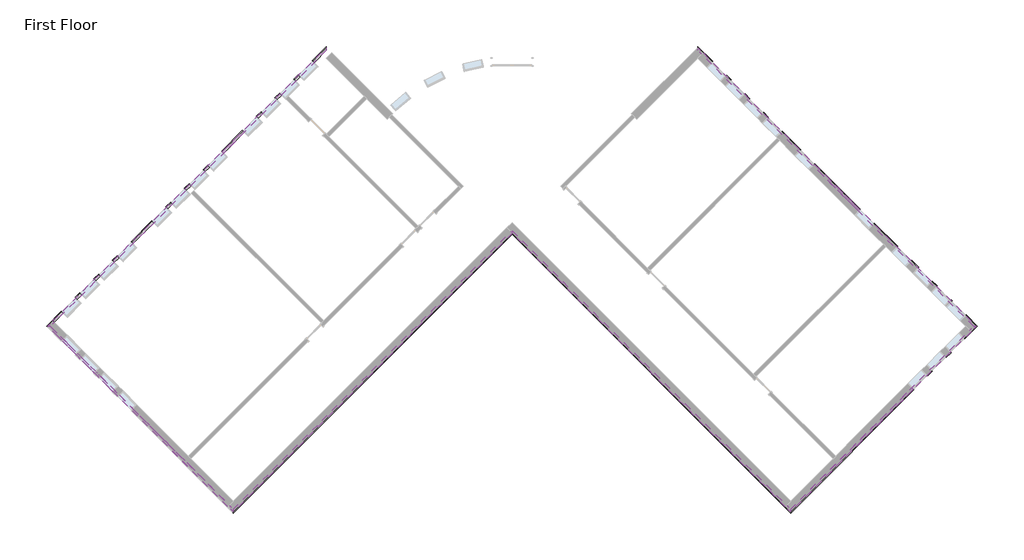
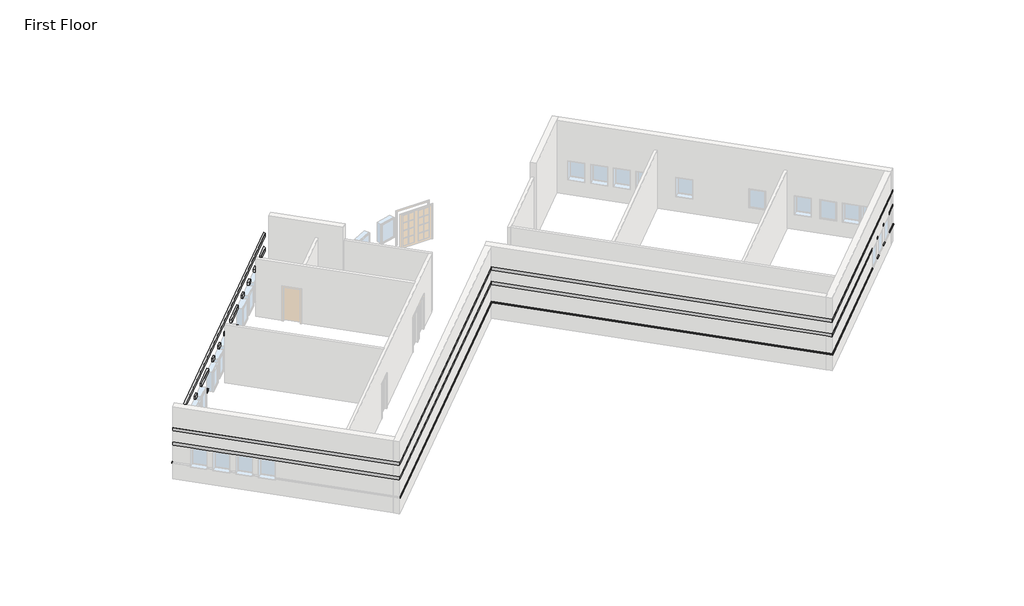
# One storey, part 3 of 3: 17 proxies.
"""IFC4 building model written with IfcOpenShell, lengths in millimetres."""

from ifc_helpers import new_model, si_unit, origin, place, context, project, spatial, faceted_brep, element, save

model = new_model("IFC4")

# Units and contexts
model_context = context("Model", 3, world=origin())
ifc_project = project(units=[si_unit("LENGTHUNIT", "METRE", prefix="MILLI")], contexts=[model_context])

# Site, building, storey
site = spatial("IfcSite", under=ifc_project)
building = spatial("IfcBuilding", under=site)
storey = spatial("IfcBuildingStorey", under=building, Name="First Floor", Elevation=0.0)

# Proxies
placement = place(None, origin())
element("IfcBuildingElementProxy", 1, Name="Wall Sweeps", at=placement, inside=storey, context=model_context, shape_type="Brep", body=[
    faceted_brep([(5753.0175119, 11443.3655905, 1085.85), (5753.0175119, 11573.5793042, 1085.85), (5753.0175119, 11622.9707129, 1041.4), (5753.0175119, 11622.9707129, 1016.0), (5753.0175119, 11443.3655905, 1016.0), (6351.327076, 10845.0560264, 1085.85), (6351.327076, 10845.0560264, 1016.0), (6416.4339329, 10910.1628833, 1016.0), (6441.1296372, 10934.8585876, 1016.0), (6441.1296372, 10934.8585876, 1041.4), (6416.4339329, 10910.1628833, 1085.85), (5937.1127624, 11259.27034, 1085.85), (5937.1127624, 11259.27034, 1016.0)], [[[0, 1, 2, 3, 4]], [[5, 6, 7, 8, 9, 10]], [[1, 0, 11, 5, 10]], [[2, 1, 10, 9]], [[3, 2, 9, 8]], [[4, 3, 8, 7, 6, 12]], [[0, 4, 12, 6, 5, 11]]]),
    faceted_brep([(6997.9055167, 10198.4775857, 1085.85), (7063.0123736, 10263.5844426, 1085.85), (7087.7080779, 10288.2801469, 1041.4), (7087.7080779, 10288.2801469, 1016.0), (7063.0123736, 10263.5844426, 1016.0), (6997.9055167, 10198.4775857, 1016.0), (7213.4316636, 9982.9514388, 1085.85), (7213.4316636, 9982.9514388, 1016.0), (7278.5385205, 10048.0582957, 1016.0), (7303.2342248, 10072.754, 1016.0), (7303.2342248, 10072.754, 1041.4), (7278.5385205, 10048.0582957, 1085.85)], [[[0, 1, 2, 3, 4, 5]], [[6, 7, 8, 9, 10, 11]], [[1, 0, 6, 11]], [[2, 1, 11, 10]], [[3, 2, 10, 9]], [[5, 4, 3, 9, 8, 7]], [[0, 5, 7, 6]]]),
    faceted_brep([(7860.0101043, 9336.3729981, 1085.85), (7925.1169612, 9401.479855, 1085.85), (7949.8126655, 9426.1755593, 1041.4), (7949.8126655, 9426.1755593, 1016.0), (7925.1169612, 9401.479855, 1016.0), (7860.0101043, 9336.3729981, 1016.0), (8075.5362512, 9120.8468512, 1085.85), (8075.5362512, 9120.8468512, 1016.0), (8140.6431081, 9185.9537081, 1016.0), (8165.3388124, 9210.6494124, 1016.0), (8165.3388124, 9210.6494124, 1041.4), (8140.6431081, 9185.9537081, 1085.85)], [[[0, 1, 2, 3, 4, 5]], [[6, 7, 8, 9, 10, 11]], [[1, 0, 6, 11]], [[2, 1, 11, 10]], [[3, 2, 10, 9]], [[5, 4, 3, 9, 8, 7]], [[0, 5, 7, 6]]]),
    faceted_brep([(8722.1146919, 8474.2684105, 1085.85), (8787.2215488, 8539.3752673, 1085.85), (8811.9172532, 8564.0709717, 1041.4), (8811.9172532, 8564.0709717, 1016.0), (8787.2215488, 8539.3752673, 1016.0), (8722.1146919, 8474.2684105, 1016.0), (8937.6408389, 8258.7422636, 1085.85), (8937.6408389, 8258.7422636, 1016.0), (9002.7476957, 8323.8491204, 1016.0), (9027.4434001, 8348.5448248, 1016.0), (9027.4434001, 8348.5448248, 1041.4), (9002.7476957, 8323.8491204, 1085.85)], [[[0, 1, 2, 3, 4, 5]], [[6, 7, 8, 9, 10, 11]], [[1, 0, 6, 11]], [[2, 1, 11, 10]], [[3, 2, 10, 9]], [[5, 4, 3, 9, 8, 7]], [[0, 5, 7, 6]]]),
    faceted_brep([(9584.2192796, 7612.1638228, 1085.85), (9649.3261364, 7677.2706797, 1085.85), (9674.0218408, 7701.966384, 1041.4), (9674.0218408, 7701.966384, 1016.0), (9649.3261364, 7677.2706797, 1016.0), (9584.2192796, 7612.1638228, 1016.0), (10446.3238672, 6750.0592352, 1085.85), (10446.3238672, 6750.0592352, 1016.0), (10511.4307241, 6815.1660921, 1016.0), (10536.1264284, 6839.8617964, 1016.0), (10536.1264284, 6839.8617964, 1041.4), (10511.4307241, 6815.1660921, 1085.85)], [[[0, 1, 2, 3, 4, 5]], [[6, 7, 8, 9, 10, 11]], [[1, 0, 6, 11]], [[2, 1, 11, 10]], [[3, 2, 10, 9]], [[5, 4, 3, 9, 8, 7]], [[0, 5, 7, 6]]]),
    faceted_brep([(11092.9023079, 6103.4807945, 1085.85), (11158.0091648, 6168.5876514, 1085.85), (11182.7048691, 6193.2833557, 1041.4), (11182.7048691, 6193.2833557, 1016.0), (11158.0091648, 6168.5876514, 1016.0), (11092.9023079, 6103.4807945, 1016.0), (13214.4878165, 3981.8952859, 1085.85), (13214.4878165, 3981.8952859, 1016.0), (13279.5946734, 4047.0021428, 1016.0), (13304.2903777, 4071.6978471, 1016.0), (13304.2903777, 4071.6978471, 1041.4), (13279.5946734, 4047.0021428, 1085.85)], [[[0, 1, 2, 3, 4, 5]], [[6, 7, 8, 9, 10, 11]], [[1, 0, 6, 11]], [[2, 1, 11, 10]], [[3, 2, 10, 9]], [[5, 4, 3, 9, 8, 7]], [[0, 5, 7, 6]]]),
    faceted_brep([(13861.0662572, 3335.3168452, 1085.85), (13926.1731141, 3400.4237021, 1085.85), (13950.8688184, 3425.1194064, 1041.4), (13950.8688184, 3425.1194064, 1016.0), (13926.1731141, 3400.4237021, 1016.0), (13861.0662572, 3335.3168452, 1016.0), (14938.6969918, 2257.6861107, 1085.85), (14938.6969918, 2257.6861107, 1016.0), (15003.8038486, 2322.7929675, 1016.0), (15028.499553, 2347.4886719, 1016.0), (15028.499553, 2347.4886719, 1041.4), (15003.8038486, 2322.7929675, 1085.85)], [[[0, 1, 2, 3, 4, 5]], [[6, 7, 8, 9, 10, 11]], [[1, 0, 6, 11]], [[2, 1, 11, 10]], [[3, 2, 10, 9]], [[5, 4, 3, 9, 8, 7]], [[0, 5, 7, 6]]]),
    faceted_brep([(15585.2754325, 1611.1076699, 1085.85), (15650.3822894, 1676.2145268, 1085.85), (15675.0779937, 1700.9102311, 1041.4), (15675.0779937, 1700.9102311, 1016.0), (15650.3822894, 1676.2145268, 1016.0), (15585.2754325, 1611.1076699, 1016.0), (15908.5646528, 1287.8184496, 1085.85), (15908.5646528, 1287.8184496, 1016.0), (15973.6715097, 1352.9253065, 1016.0), (15998.367214, 1377.6210108, 1016.0), (15998.367214, 1377.6210108, 1041.4), (15973.6715097, 1352.9253065, 1085.85)], [[[0, 1, 2, 3, 4, 5]], [[6, 7, 8, 9, 10, 11]], [[1, 0, 6, 11]], [[2, 1, 11, 10]], [[3, 2, 10, 9]], [[5, 4, 3, 9, 8, 7]], [[0, 5, 7, 6]]]),
    faceted_brep([(16555.1430936, 641.2400089, 1085.85), (16620.2499504, 706.3468657, 1085.85), (16644.9456548, 731.0425701, 1041.4), (16644.9456548, 731.0425701, 1016.0), (16620.2499504, 706.3468657, 1016.0), (16555.1430936, 641.2400089, 1016.0), (16770.6692405, 425.713862, 1085.85), (16770.6692405, 425.713862, 1016.0), (16835.7760973, 490.8207188, 1016.0), (16860.4718017, 515.5164232, 1016.0), (16860.4718017, 515.5164232, 1041.4), (16835.7760973, 490.8207188, 1085.85)], [[[0, 1, 2, 3, 4, 5]], [[6, 7, 8, 9, 10, 11]], [[1, 0, 6, 11]], [[2, 1, 11, 10]], [[3, 2, 10, 9]], [[5, 4, 3, 9, 8, 7]], [[0, 5, 7, 6]]]),
    faceted_brep([(17417.2476812, -220.8645788, 1085.85), (17482.3545381, -155.7577219, 1085.85), (17507.0502424, -131.0620176, 1041.4), (17507.0502424, -131.0620176, 1016.0), (17482.3545381, -155.7577219, 1016.0), (17417.2476812, -220.8645788, 1016.0), (17471.1292179, -274.7461155, 1085.85), (17471.1292179, -274.7461155, 1016.0), (17536.2360748, -209.6392586, 1016.0), (17560.9317791, -184.9435543, 1016.0), (17560.9317791, -184.9435543, 1041.4), (17536.2360748, -209.6392586, 1085.85)], [[[0, 1, 2, 3, 4, 5]], [[6, 7, 8, 9, 10, 11]], [[1, 0, 6, 11]], [[2, 1, 11, 10]], [[3, 2, 10, 9]], [[5, 4, 3, 9, 8, 7]], [[0, 5, 7, 6]]]),
    faceted_brep([(18117.7076586, -921.3245562, 1085.85), (18182.8145155, -856.2176993, 1085.85), (18207.5102198, -831.521995, 1041.4), (18207.5102198, -831.521995, 1016.0), (18182.8145155, -856.2176993, 1016.0), (18117.7076586, -921.3245562, 1016.0), (18554.3726125, -1357.9895101, 1085.85), (18554.3726125, -1357.9895101, 1016.0), (18733.9777349, -1357.9895101, 1016.0), (18733.9777349, -1357.9895101, 1041.4), (18684.5863263, -1357.9895101, 1085.85)], [[[0, 1, 2, 3, 4, 5]], [[6, 7, 8, 9, 10]], [[1, 0, 6, 10]], [[2, 1, 10, 9]], [[3, 2, 9, 8]], [[5, 4, 3, 8, 7]], [[0, 5, 7, 6]]]),
])
element("IfcBuildingElementProxy", 2, Name="Wall Sweeps", at=placement, inside=storey, context=model_context, shape_type="Brep", body=[
    faceted_brep([(5753.0175119, 11573.5793042, 2336.8), (5753.0175119, 11573.5793042, 2133.6), (5753.0175119, 11443.3655905, 2133.6), (5753.0175119, 11443.3655905, 2336.8), (6416.4339329, 10910.1628833, 2336.8), (6351.327076, 10845.0560264, 2336.8), (6351.327076, 10845.0560264, 2133.6), (6416.4339329, 10910.1628833, 2133.6), (6002.2196193, 11324.3771969, 2336.8), (6002.2196193, 11324.3771969, 2133.6), (5937.1127624, 11259.27034, 2133.6), (5937.1127624, 11259.27034, 2336.8)], [[[0, 1, 2, 3]], [[4, 5, 6, 7]], [[1, 0, 8, 4, 7, 9]], [[2, 1, 9, 7, 6, 10]], [[3, 2, 10, 6, 5, 11]], [[0, 3, 11, 5, 4, 8]]]),
    faceted_brep([(7063.0123736, 10263.5844426, 2336.8), (7063.0123736, 10263.5844426, 2133.6), (6997.9055167, 10198.4775857, 2133.6), (6997.9055167, 10198.4775857, 2336.8), (7278.5385205, 10048.0582957, 2336.8), (7213.4316636, 9982.9514388, 2336.8), (7213.4316636, 9982.9514388, 2133.6), (7278.5385205, 10048.0582957, 2133.6)], [[[0, 1, 2, 3]], [[4, 5, 6, 7]], [[1, 0, 4, 7]], [[2, 1, 7, 6]], [[3, 2, 6, 5]], [[0, 3, 5, 4]]]),
    faceted_brep([(7925.1169612, 9401.479855, 2336.8), (7925.1169612, 9401.479855, 2133.6), (7860.0101043, 9336.3729981, 2133.6), (7860.0101043, 9336.3729981, 2336.8), (8140.6431081, 9185.9537081, 2336.8), (8075.5362512, 9120.8468512, 2336.8), (8075.5362512, 9120.8468512, 2133.6), (8140.6431081, 9185.9537081, 2133.6)], [[[0, 1, 2, 3]], [[4, 5, 6, 7]], [[1, 0, 4, 7]], [[2, 1, 7, 6]], [[3, 2, 6, 5]], [[0, 3, 5, 4]]]),
    faceted_brep([(8787.2215488, 8539.3752673, 2336.8), (8787.2215488, 8539.3752673, 2133.6), (8722.1146919, 8474.2684105, 2133.6), (8722.1146919, 8474.2684105, 2336.8), (9002.7476957, 8323.8491204, 2336.8), (8937.6408389, 8258.7422636, 2336.8), (8937.6408389, 8258.7422636, 2133.6), (9002.7476957, 8323.8491204, 2133.6)], [[[0, 1, 2, 3]], [[4, 5, 6, 7]], [[1, 0, 4, 7]], [[2, 1, 7, 6]], [[3, 2, 6, 5]], [[0, 3, 5, 4]]]),
    faceted_brep([(9649.3261364, 7677.2706797, 2336.8), (9649.3261364, 7677.2706797, 2133.6), (9584.2192796, 7612.1638228, 2133.6), (9584.2192796, 7612.1638228, 2336.8), (10511.4307241, 6815.1660921, 2336.8), (10446.3238672, 6750.0592352, 2336.8), (10446.3238672, 6750.0592352, 2133.6), (10511.4307241, 6815.1660921, 2133.6)], [[[0, 1, 2, 3]], [[4, 5, 6, 7]], [[1, 0, 4, 7]], [[2, 1, 7, 6]], [[3, 2, 6, 5]], [[0, 3, 5, 4]]]),
    faceted_brep([(11158.0091648, 6168.5876514, 2336.8), (11158.0091648, 6168.5876514, 2133.6), (11092.9023079, 6103.4807945, 2133.6), (11092.9023079, 6103.4807945, 2336.8), (13279.5946734, 4047.0021428, 2336.8), (13214.4878165, 3981.8952859, 2336.8), (13214.4878165, 3981.8952859, 2133.6), (13279.5946734, 4047.0021428, 2133.6)], [[[0, 1, 2, 3]], [[4, 5, 6, 7]], [[1, 0, 4, 7]], [[2, 1, 7, 6]], [[3, 2, 6, 5]], [[0, 3, 5, 4]]]),
    faceted_brep([(13926.1731141, 3400.4237021, 2336.8), (13926.1731141, 3400.4237021, 2133.6), (13861.0662572, 3335.3168452, 2133.6), (13861.0662572, 3335.3168452, 2336.8), (15003.8038486, 2322.7929675, 2336.8), (14938.6969918, 2257.6861107, 2336.8), (14938.6969918, 2257.6861107, 2133.6), (15003.8038486, 2322.7929675, 2133.6)], [[[0, 1, 2, 3]], [[4, 5, 6, 7]], [[1, 0, 4, 7]], [[2, 1, 7, 6]], [[3, 2, 6, 5]], [[0, 3, 5, 4]]]),
    faceted_brep([(15650.3822894, 1676.2145268, 2336.8), (15650.3822894, 1676.2145268, 2133.6), (15585.2754325, 1611.1076699, 2133.6), (15585.2754325, 1611.1076699, 2336.8), (15973.6715097, 1352.9253065, 2336.8), (15908.5646528, 1287.8184496, 2336.8), (15908.5646528, 1287.8184496, 2133.6), (15973.6715097, 1352.9253065, 2133.6)], [[[0, 1, 2, 3]], [[4, 5, 6, 7]], [[1, 0, 4, 7]], [[2, 1, 7, 6]], [[3, 2, 6, 5]], [[0, 3, 5, 4]]]),
    faceted_brep([(16620.2499504, 706.3468657, 2336.8), (16620.2499504, 706.3468657, 2133.6), (16555.1430936, 641.2400089, 2133.6), (16555.1430936, 641.2400089, 2336.8), (16835.7760973, 490.8207188, 2336.8), (16770.6692405, 425.713862, 2336.8), (16770.6692405, 425.713862, 2133.6), (16835.7760973, 490.8207188, 2133.6)], [[[0, 1, 2, 3]], [[4, 5, 6, 7]], [[1, 0, 4, 7]], [[2, 1, 7, 6]], [[3, 2, 6, 5]], [[0, 3, 5, 4]]]),
    faceted_brep([(17482.3545381, -155.7577219, 2336.8), (17482.3545381, -155.7577219, 2133.6), (17417.2476812, -220.8645788, 2133.6), (17417.2476812, -220.8645788, 2336.8), (17536.2360748, -209.6392586, 2336.8), (17471.1292179, -274.7461155, 2336.8), (17471.1292179, -274.7461155, 2133.6), (17536.2360748, -209.6392586, 2133.6)], [[[0, 1, 2, 3]], [[4, 5, 6, 7]], [[1, 0, 4, 7]], [[2, 1, 7, 6]], [[3, 2, 6, 5]], [[0, 3, 5, 4]]]),
    faceted_brep([(18182.8145155, -856.2176993, 2336.8), (18182.8145155, -856.2176993, 2133.6), (18117.7076586, -921.3245562, 2133.6), (18117.7076586, -921.3245562, 2336.8), (18684.5863263, -1357.9895101, 2336.8), (18554.3726125, -1357.9895101, 2336.8), (18554.3726125, -1357.9895101, 2133.6), (18684.5863263, -1357.9895101, 2133.6)], [[[0, 1, 2, 3]], [[4, 5, 6, 7]], [[1, 0, 4, 7]], [[2, 1, 7, 6]], [[3, 2, 6, 5]], [[0, 3, 5, 4]]]),
])
element("IfcBuildingElementProxy", 3, Name="Wall Sweeps", at=placement, inside=storey, context=model_context, shape_type="Brep", body=[
    faceted_brep([(5753.0175119, 11573.5793042, 3251.2), (5753.0175119, 11573.5793042, 3048.0), (5753.0175119, 11443.3655905, 3048.0), (5753.0175119, 11443.3655905, 3251.2), (18684.5863263, -1357.9895101, 3251.2), (18554.3726125, -1357.9895101, 3251.2), (18554.3726125, -1357.9895101, 3048.0), (18684.5863263, -1357.9895101, 3048.0), (6002.2196193, 11324.3771969, 3251.2), (6002.2196193, 11324.3771969, 3048.0), (5937.1127624, 11259.27034, 3048.0), (5937.1127624, 11259.27034, 3251.2)], [[[0, 1, 2, 3]], [[4, 5, 6, 7]], [[1, 0, 8, 4, 7, 9]], [[2, 1, 9, 7, 6, 10]], [[3, 2, 10, 6, 5, 11]], [[0, 3, 11, 5, 4, 8]]]),
])
element("IfcBuildingElementProxy", 4, Name="Wall Sweeps", at=placement, inside=storey, context=model_context, shape_type="Brep", body=[
    faceted_brep([(18554.3726125, -1357.9895101, 1085.85), (18684.5863263, -1357.9895101, 1085.85), (18733.9777349, -1357.9895101, 1041.4), (18733.9777349, -1357.9895101, 1016.0), (18554.3726125, -1357.9895101, 1016.0), (18063.8261219, -1848.5360007, 1085.85), (18063.8261219, -1848.5360007, 1016.0), (18128.9329788, -1913.6428576, 1016.0), (18153.6286831, -1938.3385619, 1016.0), (18153.6286831, -1938.3385619, 1041.4), (18128.9329788, -1913.6428576, 1085.85), (18370.277362, -1542.0847606, 1085.85), (18370.277362, -1542.0847606, 1016.0)], [[[0, 1, 2, 3, 4]], [[5, 6, 7, 8, 9, 10]], [[1, 0, 11, 5, 10]], [[2, 1, 10, 9]], [[3, 2, 9, 8]], [[4, 3, 8, 7, 6, 12]], [[0, 4, 12, 6, 5, 11]]]),
    faceted_brep([(17417.2476812, -2495.1144414, 1085.85), (17482.3545381, -2560.2212983, 1085.85), (17507.0502424, -2584.9170026, 1041.4), (17507.0502424, -2584.9170026, 1016.0), (17482.3545381, -2560.2212983, 1016.0), (17417.2476812, -2495.1144414, 1016.0), (17201.7215343, -2710.6405883, 1085.85), (17201.7215343, -2710.6405883, 1016.0), (17266.8283911, -2775.7474452, 1016.0), (17291.5240955, -2800.4431495, 1016.0), (17291.5240955, -2800.4431495, 1041.4), (17266.8283911, -2775.7474452, 1085.85)], [[[0, 1, 2, 3, 4, 5]], [[6, 7, 8, 9, 10, 11]], [[1, 0, 6, 11]], [[2, 1, 11, 10]], [[3, 2, 10, 9]], [[5, 4, 3, 9, 8, 7]], [[0, 5, 7, 6]]]),
    faceted_brep([(16555.1430936, -3357.219029, 1085.85), (16620.2499504, -3422.3258859, 1085.85), (16644.9456548, -3447.0215903, 1041.4), (16644.9456548, -3447.0215903, 1016.0), (16620.2499504, -3422.3258859, 1016.0), (16555.1430936, -3357.219029, 1016.0), (16339.6169466, -3572.745176, 1085.85), (16339.6169466, -3572.745176, 1016.0), (16404.7238035, -3637.8520328, 1016.0), (16429.4195079, -3662.5477372, 1016.0), (16429.4195079, -3662.5477372, 1041.4), (16404.7238035, -3637.8520328, 1085.85)], [[[0, 1, 2, 3, 4, 5]], [[6, 7, 8, 9, 10, 11]], [[1, 0, 6, 11]], [[2, 1, 11, 10]], [[3, 2, 10, 9]], [[5, 4, 3, 9, 8, 7]], [[0, 5, 7, 6]]]),
    faceted_brep([(15693.0385059, -4219.3236167, 1085.85), (15758.1453628, -4284.4304735, 1085.85), (15782.8410671, -4309.1261779, 1041.4), (15782.8410671, -4309.1261779, 1016.0), (15758.1453628, -4284.4304735, 1016.0), (15693.0385059, -4219.3236167, 1016.0), (10063.54045, -9848.8216726, 1085.85), (10063.54045, -9848.8216726, 1016.0), (10063.54045, -10028.426795, 1016.0), (10063.54045, -10028.426795, 1041.4), (10063.54045, -9979.0353863, 1085.85)], [[[0, 1, 2, 3, 4, 5]], [[6, 7, 8, 9, 10]], [[1, 0, 6, 10]], [[2, 1, 10, 9]], [[3, 2, 9, 8]], [[5, 4, 3, 8, 7]], [[0, 5, 7, 6]]]),
])
element("IfcBuildingElementProxy", 5, Name="Wall Sweeps", at=placement, inside=storey, context=model_context, shape_type="Brep", body=[
    faceted_brep([(18684.5863263, -1357.9895101, 2336.8), (18684.5863263, -1357.9895101, 2133.6), (18554.3726125, -1357.9895101, 2133.6), (18554.3726125, -1357.9895101, 2336.8), (18128.9329788, -1913.6428576, 2336.8), (18063.8261219, -1848.5360007, 2336.8), (18063.8261219, -1848.5360007, 2133.6), (18128.9329788, -1913.6428576, 2133.6), (18435.3842189, -1607.1916175, 2336.8), (18435.3842189, -1607.1916175, 2133.6), (18370.277362, -1542.0847606, 2133.6), (18370.277362, -1542.0847606, 2336.8)], [[[0, 1, 2, 3]], [[4, 5, 6, 7]], [[1, 0, 8, 4, 7, 9]], [[2, 1, 9, 7, 6, 10]], [[3, 2, 10, 6, 5, 11]], [[0, 3, 11, 5, 4, 8]]]),
    faceted_brep([(17482.3545381, -2560.2212983, 2336.8), (17482.3545381, -2560.2212983, 2133.6), (17417.2476812, -2495.1144414, 2133.6), (17417.2476812, -2495.1144414, 2336.8), (17266.8283911, -2775.7474452, 2336.8), (17201.7215343, -2710.6405883, 2336.8), (17201.7215343, -2710.6405883, 2133.6), (17266.8283911, -2775.7474452, 2133.6)], [[[0, 1, 2, 3]], [[4, 5, 6, 7]], [[1, 0, 4, 7]], [[2, 1, 7, 6]], [[3, 2, 6, 5]], [[0, 3, 5, 4]]]),
    faceted_brep([(16620.2499504, -3422.3258859, 2336.8), (16620.2499504, -3422.3258859, 2133.6), (16555.1430936, -3357.219029, 2133.6), (16555.1430936, -3357.219029, 2336.8), (16404.7238035, -3637.8520328, 2336.8), (16339.6169466, -3572.745176, 2336.8), (16339.6169466, -3572.745176, 2133.6), (16404.7238035, -3637.8520328, 2133.6)], [[[0, 1, 2, 3]], [[4, 5, 6, 7]], [[1, 0, 4, 7]], [[2, 1, 7, 6]], [[3, 2, 6, 5]], [[0, 3, 5, 4]]]),
    faceted_brep([(15758.1453628, -4284.4304735, 2336.8), (15758.1453628, -4284.4304735, 2133.6), (15693.0385059, -4219.3236167, 2133.6), (15693.0385059, -4219.3236167, 2336.8), (10063.54045, -9979.0353863, 2336.8), (10063.54045, -9848.8216726, 2336.8), (10063.54045, -9848.8216726, 2133.6), (10063.54045, -9979.0353863, 2133.6)], [[[0, 1, 2, 3]], [[4, 5, 6, 7]], [[1, 0, 4, 7]], [[2, 1, 7, 6]], [[3, 2, 6, 5]], [[0, 3, 5, 4]]]),
])
element("IfcBuildingElementProxy", 6, Name="Wall Sweeps", at=placement, inside=storey, context=model_context, shape_type="Brep", body=[
    faceted_brep([(18684.5863263, -1357.9895101, 3251.2), (18684.5863263, -1357.9895101, 3048.0), (18554.3726125, -1357.9895101, 3048.0), (18554.3726125, -1357.9895101, 3251.2), (10063.54045, -9979.0353863, 3251.2), (10063.54045, -9848.8216726, 3251.2), (10063.54045, -9848.8216726, 3048.0), (10063.54045, -9979.0353863, 3048.0), (18435.3842189, -1607.1916175, 3251.2), (18435.3842189, -1607.1916175, 3048.0), (18370.277362, -1542.0847606, 3048.0), (18370.277362, -1542.0847606, 3251.2)], [[[0, 1, 2, 3]], [[4, 5, 6, 7]], [[1, 0, 8, 4, 7, 9]], [[2, 1, 9, 7, 6, 10]], [[3, 2, 10, 6, 5, 11]], [[0, 3, 11, 5, 4, 8]]]),
])
element("IfcBuildingElementProxy", 7, Name="Wall Sweeps", at=placement, inside=storey, context=model_context, shape_type="Brep", body=[
    faceted_brep([(10063.54045, -9848.8216726, 1085.85), (10063.54045, -9979.0353863, 1085.85), (10063.54045, -10028.426795, 1041.4), (10063.54045, -10028.426795, 1016.0), (10063.54045, -9848.8216726, 1016.0), (-2868.0283643, 3082.7471418, 1085.85), (-2868.0283643, 3082.7471418, 1016.0), (-2868.0283643, 2903.1420194, 1016.0), (-2868.0283643, 2903.1420194, 1041.4), (-2868.0283643, 2952.533428, 1085.85), (9879.4451996, -9664.7264221, 1085.85), (9879.4451996, -9664.7264221, 1016.0)], [[[0, 1, 2, 3, 4]], [[5, 6, 7, 8, 9]], [[1, 0, 10, 5, 9]], [[2, 1, 9, 8]], [[3, 2, 8, 7]], [[4, 3, 7, 6, 11]], [[0, 4, 11, 6, 5, 10]]]),
])
element("IfcBuildingElementProxy", 8, Name="Wall Sweeps", at=placement, inside=storey, context=model_context, shape_type="Brep", body=[
    faceted_brep([(10063.54045, -9979.0353863, 2336.8), (10063.54045, -9979.0353863, 2133.6), (10063.54045, -9848.8216726, 2133.6), (10063.54045, -9848.8216726, 2336.8), (-2868.0283643, 2952.533428, 2336.8), (-2868.0283643, 3082.7471418, 2336.8), (-2868.0283643, 3082.7471418, 2133.6), (-2868.0283643, 2952.533428, 2133.6), (9814.3383427, -9729.833279, 2336.8), (9814.3383427, -9729.833279, 2133.6), (9879.4451996, -9664.7264221, 2133.6), (9879.4451996, -9664.7264221, 2336.8)], [[[0, 1, 2, 3]], [[4, 5, 6, 7]], [[1, 0, 8, 4, 7, 9]], [[2, 1, 9, 7, 6, 10]], [[3, 2, 10, 6, 5, 11]], [[0, 3, 11, 5, 4, 8]]]),
])
element("IfcBuildingElementProxy", 9, Name="Wall Sweeps", at=placement, inside=storey, context=model_context, shape_type="Brep", body=[
    faceted_brep([(10063.54045, -9979.0353863, 3251.2), (10063.54045, -9979.0353863, 3048.0), (10063.54045, -9848.8216726, 3048.0), (10063.54045, -9848.8216726, 3251.2), (-2868.0283643, 2952.533428, 3251.2), (-2868.0283643, 3082.7471418, 3251.2), (-2868.0283643, 3082.7471418, 3048.0), (-2868.0283643, 2952.533428, 3048.0), (9814.3383427, -9729.833279, 3251.2), (9814.3383427, -9729.833279, 3048.0), (9879.4451996, -9664.7264221, 3048.0), (9879.4451996, -9664.7264221, 3251.2)], [[[0, 1, 2, 3]], [[4, 5, 6, 7]], [[1, 0, 8, 4, 7, 9]], [[2, 1, 9, 7, 6, 10]], [[3, 2, 10, 6, 5, 11]], [[0, 3, 11, 5, 4, 8]]]),
])
element("IfcBuildingElementProxy", 10, Name="Wall Sweeps", at=placement, inside=storey, context=model_context, shape_type="Brep", body=[
    faceted_brep([(-2868.0283643, 3082.7471418, 1085.85), (-2868.0283643, 2952.533428, 1085.85), (-2868.0283643, 2903.1420194, 1041.4), (-2868.0283643, 2903.1420194, 1016.0), (-2868.0283643, 3082.7471418, 1016.0), (-15799.5971786, -9848.8216726, 1085.85), (-15799.5971786, -9848.8216726, 1016.0), (-15799.5971786, -10028.426795, 1016.0), (-15799.5971786, -10028.426795, 1041.4), (-15799.5971786, -9979.0353863, 1085.85), (-2933.1352212, 3017.6402849, 1085.85), (-2933.1352212, 3017.6402849, 1016.0)], [[[0, 1, 2, 3, 4]], [[5, 6, 7, 8, 9]], [[1, 0, 10, 5, 9]], [[2, 1, 9, 8]], [[3, 2, 8, 7]], [[4, 3, 7, 6, 11]], [[0, 4, 11, 6, 5, 10]]]),
])
element("IfcBuildingElementProxy", 11, Name="Wall Sweeps", at=placement, inside=storey, context=model_context, shape_type="Brep", body=[
    faceted_brep([(-2868.0283643, 2952.533428, 2336.8), (-2868.0283643, 2952.533428, 2133.6), (-2868.0283643, 3082.7471418, 2133.6), (-2868.0283643, 3082.7471418, 2336.8), (-15799.5971786, -9979.0353863, 2336.8), (-15799.5971786, -9848.8216726, 2336.8), (-15799.5971786, -9848.8216726, 2133.6), (-15799.5971786, -9979.0353863, 2133.6), (-2933.1352212, 3017.6402849, 2133.6), (-2933.1352212, 3017.6402849, 2336.8)], [[[0, 1, 2, 3]], [[4, 5, 6, 7]], [[1, 0, 4, 7]], [[2, 1, 7, 6, 8]], [[3, 2, 8, 6, 5, 9]], [[0, 3, 9, 5, 4]]]),
])
element("IfcBuildingElementProxy", 12, Name="Wall Sweeps", at=placement, inside=storey, context=model_context, shape_type="Brep", body=[
    faceted_brep([(-2868.0283643, 2952.533428, 3251.2), (-2868.0283643, 2952.533428, 3048.0), (-2868.0283643, 3082.7471418, 3048.0), (-2868.0283643, 3082.7471418, 3251.2), (-15799.5971786, -9979.0353863, 3251.2), (-15799.5971786, -9848.8216726, 3251.2), (-15799.5971786, -9848.8216726, 3048.0), (-15799.5971786, -9979.0353863, 3048.0), (-2933.1352212, 3017.6402849, 3048.0), (-2933.1352212, 3017.6402849, 3251.2)], [[[0, 1, 2, 3]], [[4, 5, 6, 7]], [[1, 0, 4, 7]], [[2, 1, 7, 6, 8]], [[3, 2, 8, 6, 5, 9]], [[0, 3, 9, 5, 4]]]),
])
element("IfcBuildingElementProxy", 13, Name="Wall Sweeps", at=placement, inside=storey, context=model_context, shape_type="Brep", body=[
    faceted_brep([(-24290.4293411, -1357.9895101, 1085.85), (-24420.6430549, -1357.9895101, 1085.85), (-24470.0344635, -1357.9895101, 1041.4), (-24470.0344635, -1357.9895101, 1016.0), (-24290.4293411, -1357.9895101, 1016.0), (-23692.119777, -759.679946, 1085.85), (-23692.119777, -759.679946, 1016.0), (-23757.2266339, -694.5730891, 1016.0), (-23781.9223383, -669.8773848, 1016.0), (-23781.9223383, -669.8773848, 1041.4), (-23757.2266339, -694.5730891, 1085.85), (-24106.3340906, -1173.8942596, 1085.85), (-24106.3340906, -1173.8942596, 1016.0)], [[[0, 1, 2, 3, 4]], [[5, 6, 7, 8, 9, 10]], [[1, 0, 11, 5, 10]], [[2, 1, 10, 9]], [[3, 2, 9, 8]], [[4, 3, 8, 7, 6, 12]], [[0, 4, 12, 6, 5, 11]]]),
    faceted_brep([(-23045.5413363, -113.1015053, 1085.85), (-23110.6481932, -47.9946484, 1085.85), (-23135.3438975, -23.2989441, 1041.4), (-23135.3438975, -23.2989441, 1016.0), (-23110.6481932, -47.9946484, 1016.0), (-23045.5413363, -113.1015053, 1016.0), (-22830.0151894, 102.4246416, 1085.85), (-22830.0151894, 102.4246416, 1016.0), (-22895.1220463, 167.5314985, 1016.0), (-22919.8177506, 192.2272028, 1016.0), (-22919.8177506, 192.2272028, 1041.4), (-22895.1220463, 167.5314985, 1085.85)], [[[0, 1, 2, 3, 4, 5]], [[6, 7, 8, 9, 10, 11]], [[1, 0, 6, 11]], [[2, 1, 11, 10]], [[3, 2, 10, 9]], [[5, 4, 3, 9, 8, 7]], [[0, 5, 7, 6]]]),
    faceted_brep([(-22183.4367487, 749.0030823, 1085.85), (-22248.5436056, 814.1099392, 1085.85), (-22273.2393099, 838.8056435, 1041.4), (-22273.2393099, 838.8056435, 1016.0), (-22248.5436056, 814.1099392, 1016.0), (-22183.4367487, 749.0030823, 1016.0), (-21967.9106018, 964.5292292, 1085.85), (-21967.9106018, 964.5292292, 1016.0), (-22033.0174587, 1029.6360861, 1016.0), (-22057.713163, 1054.3317904, 1016.0), (-22057.713163, 1054.3317904, 1041.4), (-22033.0174587, 1029.6360861, 1085.85)], [[[0, 1, 2, 3, 4, 5]], [[6, 7, 8, 9, 10, 11]], [[1, 0, 6, 11]], [[2, 1, 11, 10]], [[3, 2, 10, 9]], [[5, 4, 3, 9, 8, 7]], [[0, 5, 7, 6]]]),
    faceted_brep([(-21321.3321611, 1611.1076699, 1085.85), (-21386.439018, 1676.2145268, 1085.85), (-21411.1347223, 1700.9102311, 1041.4), (-21411.1347223, 1700.9102311, 1016.0), (-21386.439018, 1676.2145268, 1016.0), (-21321.3321611, 1611.1076699, 1016.0), (-21105.8060142, 1826.6338168, 1085.85), (-21105.8060142, 1826.6338168, 1016.0), (-21170.9128711, 1891.7406737, 1016.0), (-21195.6085754, 1916.4363781, 1016.0), (-21195.6085754, 1916.4363781, 1041.4), (-21170.9128711, 1891.7406737, 1085.85)], [[[0, 1, 2, 3, 4, 5]], [[6, 7, 8, 9, 10, 11]], [[1, 0, 6, 11]], [[2, 1, 11, 10]], [[3, 2, 10, 9]], [[5, 4, 3, 9, 8, 7]], [[0, 5, 7, 6]]]),
    faceted_brep([(-20459.2275735, 2473.2122576, 1085.85), (-20524.3344303, 2538.3191144, 1085.85), (-20549.0301347, 2563.0148188, 1041.4), (-20549.0301347, 2563.0148188, 1016.0), (-20524.3344303, 2538.3191144, 1016.0), (-20459.2275735, 2473.2122576, 1016.0), (-19489.2421301, 3443.1977009, 1085.85), (-19489.2421301, 3443.1977009, 1016.0), (-19554.348987, 3508.3045578, 1016.0), (-19579.0446913, 3533.0002621, 1016.0), (-19579.0446913, 3533.0002621, 1041.4), (-19554.348987, 3508.3045578, 1085.85)], [[[0, 1, 2, 3, 4, 5]], [[6, 7, 8, 9, 10, 11]], [[1, 0, 6, 11]], [[2, 1, 11, 10]], [[3, 2, 10, 9]], [[5, 4, 3, 9, 8, 7]], [[0, 5, 7, 6]]]),
    faceted_brep([(-18842.6636894, 4089.7761416, 1085.85), (-18907.7705463, 4154.8829985, 1085.85), (-18932.4662506, 4179.5787028, 1041.4), (-18932.4662506, 4179.5787028, 1016.0), (-18907.7705463, 4154.8829985, 1016.0), (-18842.6636894, 4089.7761416, 1016.0), (-18627.1375425, 4305.3022885, 1085.85), (-18627.1375425, 4305.3022885, 1016.0), (-18692.2443994, 4370.4091454, 1016.0), (-18716.9401037, 4395.1048497, 1016.0), (-18716.9401037, 4395.1048497, 1041.4), (-18692.2443994, 4370.4091454, 1085.85)], [[[0, 1, 2, 3, 4, 5]], [[6, 7, 8, 9, 10, 11]], [[1, 0, 6, 11]], [[2, 1, 11, 10]], [[3, 2, 10, 9]], [[5, 4, 3, 9, 8, 7]], [[0, 5, 7, 6]]]),
    faceted_brep([(-17980.5591018, 4951.8807292, 1085.85), (-18045.6659587, 5016.9875861, 1085.85), (-18070.361663, 5041.6832905, 1041.4), (-18070.361663, 5041.6832905, 1016.0), (-18045.6659587, 5016.9875861, 1016.0), (-17980.5591018, 4951.8807292, 1016.0), (-17765.0329549, 5167.4068762, 1085.85), (-17765.0329549, 5167.4068762, 1016.0), (-17830.1398117, 5232.513733, 1016.0), (-17854.8355161, 5257.2094374, 1016.0), (-17854.8355161, 5257.2094374, 1041.4), (-17830.1398117, 5232.513733, 1085.85)], [[[0, 1, 2, 3, 4, 5]], [[6, 7, 8, 9, 10, 11]], [[1, 0, 6, 11]], [[2, 1, 11, 10]], [[3, 2, 10, 9]], [[5, 4, 3, 9, 8, 7]], [[0, 5, 7, 6]]]),
    faceted_brep([(-17118.4545142, 5813.9853169, 1085.85), (-17183.561371, 5879.0921737, 1085.85), (-17208.2570754, 5903.7878781, 1041.4), (-17208.2570754, 5903.7878781, 1016.0), (-17183.561371, 5879.0921737, 1016.0), (-17118.4545142, 5813.9853169, 1016.0), (-16902.9283672, 6029.5114638, 1085.85), (-16902.9283672, 6029.5114638, 1016.0), (-16968.0352241, 6094.6183207, 1016.0), (-16992.7309285, 6119.314025, 1016.0), (-16992.7309285, 6119.314025, 1041.4), (-16968.0352241, 6094.6183207, 1085.85)], [[[0, 1, 2, 3, 4, 5]], [[6, 7, 8, 9, 10, 11]], [[1, 0, 6, 11]], [[2, 1, 11, 10]], [[3, 2, 10, 9]], [[5, 4, 3, 9, 8, 7]], [[0, 5, 7, 6]]]),
    faceted_brep([(-16256.3499265, 6676.0899045, 1085.85), (-16321.4567834, 6741.1967614, 1085.85), (-16346.1524877, 6765.8924657, 1041.4), (-16346.1524877, 6765.8924657, 1016.0), (-16321.4567834, 6741.1967614, 1016.0), (-16256.3499265, 6676.0899045, 1016.0), (-15286.3644832, 7646.0753478, 1085.85), (-15286.3644832, 7646.0753478, 1016.0), (-15351.4713401, 7711.1822047, 1016.0), (-15376.1670444, 7735.877909, 1016.0), (-15376.1670444, 7735.877909, 1041.4), (-15351.4713401, 7711.1822047, 1085.85)], [[[0, 1, 2, 3, 4, 5]], [[6, 7, 8, 9, 10, 11]], [[1, 0, 6, 11]], [[2, 1, 11, 10]], [[3, 2, 10, 9]], [[5, 4, 3, 9, 8, 7]], [[0, 5, 7, 6]]]),
    faceted_brep([(-14639.7860425, 8292.6537886, 1085.85), (-14704.8928993, 8357.7606454, 1085.85), (-14729.5886037, 8382.4563498, 1041.4), (-14729.5886037, 8382.4563498, 1016.0), (-14704.8928993, 8357.7606454, 1016.0), (-14639.7860425, 8292.6537886, 1016.0), (-14424.2598956, 8508.1799355, 1085.85), (-14424.2598956, 8508.1799355, 1016.0), (-14489.3667524, 8573.2867923, 1016.0), (-14514.0624568, 8597.9824967, 1016.0), (-14514.0624568, 8597.9824967, 1041.4), (-14489.3667524, 8573.2867923, 1085.85)], [[[0, 1, 2, 3, 4, 5]], [[6, 7, 8, 9, 10, 11]], [[1, 0, 6, 11]], [[2, 1, 11, 10]], [[3, 2, 10, 9]], [[5, 4, 3, 9, 8, 7]], [[0, 5, 7, 6]]]),
    faceted_brep([(-13777.6814548, 9154.7583762, 1085.85), (-13842.7883117, 9219.8652331, 1085.85), (-13867.4840161, 9244.5609374, 1041.4), (-13867.4840161, 9244.5609374, 1016.0), (-13842.7883117, 9219.8652331, 1016.0), (-13777.6814548, 9154.7583762, 1016.0), (-13562.1553079, 9370.2845231, 1085.85), (-13562.1553079, 9370.2845231, 1016.0), (-13627.2621648, 9435.39138, 1016.0), (-13651.9578691, 9460.0870843, 1016.0), (-13651.9578691, 9460.0870843, 1041.4), (-13627.2621648, 9435.39138, 1085.85)], [[[0, 1, 2, 3, 4, 5]], [[6, 7, 8, 9, 10, 11]], [[1, 0, 6, 11]], [[2, 1, 11, 10]], [[3, 2, 10, 9]], [[5, 4, 3, 9, 8, 7]], [[0, 5, 7, 6]]]),
    faceted_brep([(-12915.5768672, 10016.8629638, 1085.85), (-12980.6837241, 10081.9698207, 1085.85), (-13005.3794284, 10106.665525, 1041.4), (-13005.3794284, 10106.665525, 1016.0), (-12980.6837241, 10081.9698207, 1016.0), (-12915.5768672, 10016.8629638, 1016.0), (-12700.0507203, 10232.3891107, 1085.85), (-12700.0507203, 10232.3891107, 1016.0), (-12765.1575772, 10297.4959676, 1016.0), (-12789.8532815, 10322.1916719, 1016.0), (-12789.8532815, 10322.1916719, 1041.4), (-12765.1575772, 10297.4959676, 1085.85)], [[[0, 1, 2, 3, 4, 5]], [[6, 7, 8, 9, 10, 11]], [[1, 0, 6, 11]], [[2, 1, 11, 10]], [[3, 2, 10, 9]], [[5, 4, 3, 9, 8, 7]], [[0, 5, 7, 6]]]),
    faceted_brep([(-12053.4722796, 10878.9675514, 1085.85), (-12118.5791365, 10944.0744083, 1085.85), (-12143.2748408, 10968.7701126, 1041.4), (-12143.2748408, 10968.7701126, 1016.0), (-12118.5791365, 10944.0744083, 1016.0), (-12053.4722796, 10878.9675514, 1016.0), (-11489.0742405, 11443.3655905, 1085.85), (-11489.0742405, 11443.3655905, 1016.0), (-11489.0742405, 11622.9707129, 1016.0), (-11489.0742405, 11622.9707129, 1041.4), (-11489.0742405, 11573.5793042, 1085.85)], [[[0, 1, 2, 3, 4, 5]], [[6, 7, 8, 9, 10]], [[1, 0, 6, 10]], [[2, 1, 10, 9]], [[3, 2, 9, 8]], [[5, 4, 3, 8, 7]], [[0, 5, 7, 6]]]),
])
element("IfcBuildingElementProxy", 14, Name="Wall Sweeps", at=placement, inside=storey, context=model_context, shape_type="Brep", body=[
    faceted_brep([(-24420.6430549, -1357.9895101, 2336.8), (-24420.6430549, -1357.9895101, 2133.6), (-24290.4293411, -1357.9895101, 2133.6), (-24290.4293411, -1357.9895101, 2336.8), (-23757.2266339, -694.5730891, 2336.8), (-23692.119777, -759.679946, 2336.8), (-23692.119777, -759.679946, 2133.6), (-23757.2266339, -694.5730891, 2133.6), (-24171.4409475, -1108.7874027, 2336.8), (-24171.4409475, -1108.7874027, 2133.6), (-24106.3340906, -1173.8942596, 2133.6), (-24106.3340906, -1173.8942596, 2336.8)], [[[0, 1, 2, 3]], [[4, 5, 6, 7]], [[1, 0, 8, 4, 7, 9]], [[2, 1, 9, 7, 6, 10]], [[3, 2, 10, 6, 5, 11]], [[0, 3, 11, 5, 4, 8]]]),
    faceted_brep([(-23110.6481932, -47.9946484, 2336.8), (-23110.6481932, -47.9946484, 2133.6), (-23045.5413363, -113.1015053, 2133.6), (-23045.5413363, -113.1015053, 2336.8), (-22895.1220463, 167.5314985, 2336.8), (-22830.0151894, 102.4246416, 2336.8), (-22830.0151894, 102.4246416, 2133.6), (-22895.1220463, 167.5314985, 2133.6)], [[[0, 1, 2, 3]], [[4, 5, 6, 7]], [[1, 0, 4, 7]], [[2, 1, 7, 6]], [[3, 2, 6, 5]], [[0, 3, 5, 4]]]),
    faceted_brep([(-22248.5436056, 814.1099392, 2336.8), (-22248.5436056, 814.1099392, 2133.6), (-22183.4367487, 749.0030823, 2133.6), (-22183.4367487, 749.0030823, 2336.8), (-22033.0174587, 1029.6360861, 2336.8), (-21967.9106018, 964.5292292, 2336.8), (-21967.9106018, 964.5292292, 2133.6), (-22033.0174587, 1029.6360861, 2133.6)], [[[0, 1, 2, 3]], [[4, 5, 6, 7]], [[1, 0, 4, 7]], [[2, 1, 7, 6]], [[3, 2, 6, 5]], [[0, 3, 5, 4]]]),
    faceted_brep([(-21386.439018, 1676.2145268, 2336.8), (-21386.439018, 1676.2145268, 2133.6), (-21321.3321611, 1611.1076699, 2133.6), (-21321.3321611, 1611.1076699, 2336.8), (-21170.9128711, 1891.7406737, 2336.8), (-21105.8060142, 1826.6338168, 2336.8), (-21105.8060142, 1826.6338168, 2133.6), (-21170.9128711, 1891.7406737, 2133.6)], [[[0, 1, 2, 3]], [[4, 5, 6, 7]], [[1, 0, 4, 7]], [[2, 1, 7, 6]], [[3, 2, 6, 5]], [[0, 3, 5, 4]]]),
    faceted_brep([(-20524.3344303, 2538.3191144, 2336.8), (-20524.3344303, 2538.3191144, 2133.6), (-20459.2275735, 2473.2122576, 2133.6), (-20459.2275735, 2473.2122576, 2336.8), (-19554.348987, 3508.3045578, 2336.8), (-19489.2421301, 3443.1977009, 2336.8), (-19489.2421301, 3443.1977009, 2133.6), (-19554.348987, 3508.3045578, 2133.6)], [[[0, 1, 2, 3]], [[4, 5, 6, 7]], [[1, 0, 4, 7]], [[2, 1, 7, 6]], [[3, 2, 6, 5]], [[0, 3, 5, 4]]]),
    faceted_brep([(-18907.7705463, 4154.8829985, 2336.8), (-18907.7705463, 4154.8829985, 2133.6), (-18842.6636894, 4089.7761416, 2133.6), (-18842.6636894, 4089.7761416, 2336.8), (-18692.2443994, 4370.4091454, 2336.8), (-18627.1375425, 4305.3022885, 2336.8), (-18627.1375425, 4305.3022885, 2133.6), (-18692.2443994, 4370.4091454, 2133.6)], [[[0, 1, 2, 3]], [[4, 5, 6, 7]], [[1, 0, 4, 7]], [[2, 1, 7, 6]], [[3, 2, 6, 5]], [[0, 3, 5, 4]]]),
    faceted_brep([(-18045.6659587, 5016.9875861, 2336.8), (-18045.6659587, 5016.9875861, 2133.6), (-17980.5591018, 4951.8807292, 2133.6), (-17980.5591018, 4951.8807292, 2336.8), (-17830.1398117, 5232.513733, 2336.8), (-17765.0329549, 5167.4068762, 2336.8), (-17765.0329549, 5167.4068762, 2133.6), (-17830.1398117, 5232.513733, 2133.6)], [[[0, 1, 2, 3]], [[4, 5, 6, 7]], [[1, 0, 4, 7]], [[2, 1, 7, 6]], [[3, 2, 6, 5]], [[0, 3, 5, 4]]]),
    faceted_brep([(-17183.561371, 5879.0921737, 2336.8), (-17183.561371, 5879.0921737, 2133.6), (-17118.4545142, 5813.9853169, 2133.6), (-17118.4545142, 5813.9853169, 2336.8), (-16968.0352241, 6094.6183207, 2336.8), (-16902.9283672, 6029.5114638, 2336.8), (-16902.9283672, 6029.5114638, 2133.6), (-16968.0352241, 6094.6183207, 2133.6)], [[[0, 1, 2, 3]], [[4, 5, 6, 7]], [[1, 0, 4, 7]], [[2, 1, 7, 6]], [[3, 2, 6, 5]], [[0, 3, 5, 4]]]),
    faceted_brep([(-16321.4567834, 6741.1967614, 2336.8), (-16321.4567834, 6741.1967614, 2133.6), (-16256.3499265, 6676.0899045, 2133.6), (-16256.3499265, 6676.0899045, 2336.8), (-15351.4713401, 7711.1822047, 2336.8), (-15286.3644832, 7646.0753478, 2336.8), (-15286.3644832, 7646.0753478, 2133.6), (-15351.4713401, 7711.1822047, 2133.6)], [[[0, 1, 2, 3]], [[4, 5, 6, 7]], [[1, 0, 4, 7]], [[2, 1, 7, 6]], [[3, 2, 6, 5]], [[0, 3, 5, 4]]]),
    faceted_brep([(-14704.8928993, 8357.7606454, 2336.8), (-14704.8928993, 8357.7606454, 2133.6), (-14639.7860425, 8292.6537886, 2133.6), (-14639.7860425, 8292.6537886, 2336.8), (-14489.3667524, 8573.2867923, 2336.8), (-14424.2598956, 8508.1799355, 2336.8), (-14424.2598956, 8508.1799355, 2133.6), (-14489.3667524, 8573.2867923, 2133.6)], [[[0, 1, 2, 3]], [[4, 5, 6, 7]], [[1, 0, 4, 7]], [[2, 1, 7, 6]], [[3, 2, 6, 5]], [[0, 3, 5, 4]]]),
    faceted_brep([(-13842.7883117, 9219.8652331, 2336.8), (-13842.7883117, 9219.8652331, 2133.6), (-13777.6814548, 9154.7583762, 2133.6), (-13777.6814548, 9154.7583762, 2336.8), (-13627.2621648, 9435.39138, 2336.8), (-13562.1553079, 9370.2845231, 2336.8), (-13562.1553079, 9370.2845231, 2133.6), (-13627.2621648, 9435.39138, 2133.6)], [[[0, 1, 2, 3]], [[4, 5, 6, 7]], [[1, 0, 4, 7]], [[2, 1, 7, 6]], [[3, 2, 6, 5]], [[0, 3, 5, 4]]]),
    faceted_brep([(-12980.6837241, 10081.9698207, 2336.8), (-12980.6837241, 10081.9698207, 2133.6), (-12915.5768672, 10016.8629638, 2133.6), (-12915.5768672, 10016.8629638, 2336.8), (-12765.1575772, 10297.4959676, 2336.8), (-12700.0507203, 10232.3891107, 2336.8), (-12700.0507203, 10232.3891107, 2133.6), (-12765.1575772, 10297.4959676, 2133.6)], [[[0, 1, 2, 3]], [[4, 5, 6, 7]], [[1, 0, 4, 7]], [[2, 1, 7, 6]], [[3, 2, 6, 5]], [[0, 3, 5, 4]]]),
    faceted_brep([(-12118.5791365, 10944.0744083, 2336.8), (-12118.5791365, 10944.0744083, 2133.6), (-12053.4722796, 10878.9675514, 2133.6), (-12053.4722796, 10878.9675514, 2336.8), (-11489.0742405, 11573.5793042, 2336.8), (-11489.0742405, 11443.3655905, 2336.8), (-11489.0742405, 11443.3655905, 2133.6), (-11489.0742405, 11573.5793042, 2133.6)], [[[0, 1, 2, 3]], [[4, 5, 6, 7]], [[1, 0, 4, 7]], [[2, 1, 7, 6]], [[3, 2, 6, 5]], [[0, 3, 5, 4]]]),
])
element("IfcBuildingElementProxy", 15, Name="Wall Sweeps", at=placement, inside=storey, context=model_context, shape_type="Brep", body=[
    faceted_brep([(-24420.6430549, -1357.9895101, 3251.2), (-24420.6430549, -1357.9895101, 3048.0), (-24290.4293411, -1357.9895101, 3048.0), (-24290.4293411, -1357.9895101, 3251.2), (-11489.0742405, 11573.5793042, 3251.2), (-11489.0742405, 11443.3655905, 3251.2), (-11489.0742405, 11443.3655905, 3048.0), (-11489.0742405, 11573.5793042, 3048.0), (-24171.4409475, -1108.7874027, 3251.2), (-24171.4409475, -1108.7874027, 3048.0), (-24106.3340906, -1173.8942596, 3048.0), (-24106.3340906, -1173.8942596, 3251.2)], [[[0, 1, 2, 3]], [[4, 5, 6, 7]], [[1, 0, 8, 4, 7, 9]], [[2, 1, 9, 7, 6, 10]], [[3, 2, 10, 6, 5, 11]], [[0, 3, 11, 5, 4, 8]]]),
])
element("IfcBuildingElementProxy", 16, Name="Wall Sweeps", at=placement, inside=storey, context=model_context, shape_type="Brep", body=[
    faceted_brep([(-15799.5971786, -9979.0353863, 2336.8), (-15799.5971786, -9979.0353863, 2133.6), (-15799.5971786, -9848.8216726, 2133.6), (-15799.5971786, -9848.8216726, 2336.8), (-24420.6430549, -1357.9895101, 2336.8), (-24290.4293411, -1357.9895101, 2336.8), (-24290.4293411, -1357.9895101, 2133.6), (-24420.6430549, -1357.9895101, 2133.6), (-16048.799286, -9729.833279, 2336.8), (-23757.2266339, -2021.405931, 2133.6), (-23110.6481932, -2667.9843718, 2133.6), (-22895.1220463, -2883.5105187, 2133.6), (-22248.5436056, -3530.0889594, 2133.6), (-22033.0174587, -3745.6151063, 2133.6), (-21386.439018, -4392.193547, 2133.6), (-21170.9128711, -4607.7196939, 2133.6), (-20524.3344303, -5254.2981346, 2133.6), (-16048.799286, -9729.833279, 2133.6), (-23692.119777, -1956.2990742, 2133.6), (-23045.5413363, -2602.8775149, 2133.6), (-22830.0151894, -2818.4036618, 2133.6), (-22183.4367487, -3464.9821025, 2133.6), (-21967.9106018, -3680.5082494, 2133.6), (-21321.3321611, -4327.0866901, 2133.6), (-21105.8060142, -4542.612837, 2133.6), (-20459.2275735, -5189.1912777, 2133.6), (-15983.6924291, -9664.7264221, 2133.6), (-15983.6924291, -9664.7264221, 2336.8)], [[[0, 1, 2, 3]], [[4, 5, 6, 7]], [[1, 0, 8, 4, 7, 9, 10, 11, 12, 13, 14, 15, 16, 17]], [[2, 1, 17, 16, 15, 14, 13, 12, 11, 10, 9, 7, 6, 18, 19, 20, 21, 22, 23, 24, 25, 26]], [[3, 2, 26, 25, 24, 23, 22, 21, 20, 19, 18, 6, 5, 27]], [[0, 3, 27, 5, 4, 8]]]),
])
element("IfcBuildingElementProxy", 17, Name="Wall Sweeps", at=placement, inside=storey, context=model_context, shape_type="Brep", body=[
    faceted_brep([(-15799.5971786, -9979.0353863, 3251.2), (-15799.5971786, -9979.0353863, 3048.0), (-15799.5971786, -9848.8216726, 3048.0), (-15799.5971786, -9848.8216726, 3251.2), (-24420.6430549, -1357.9895101, 3251.2), (-24290.4293411, -1357.9895101, 3251.2), (-24290.4293411, -1357.9895101, 3048.0), (-24420.6430549, -1357.9895101, 3048.0), (-16048.799286, -9729.833279, 3251.2), (-16048.799286, -9729.833279, 3048.0), (-15983.6924291, -9664.7264221, 3048.0), (-15983.6924291, -9664.7264221, 3251.2)], [[[0, 1, 2, 3]], [[4, 5, 6, 7]], [[1, 0, 8, 4, 7, 9]], [[2, 1, 9, 7, 6, 10]], [[3, 2, 10, 6, 5, 11]], [[0, 3, 11, 5, 4, 8]]]),
])

save(model, "model.ifc")
